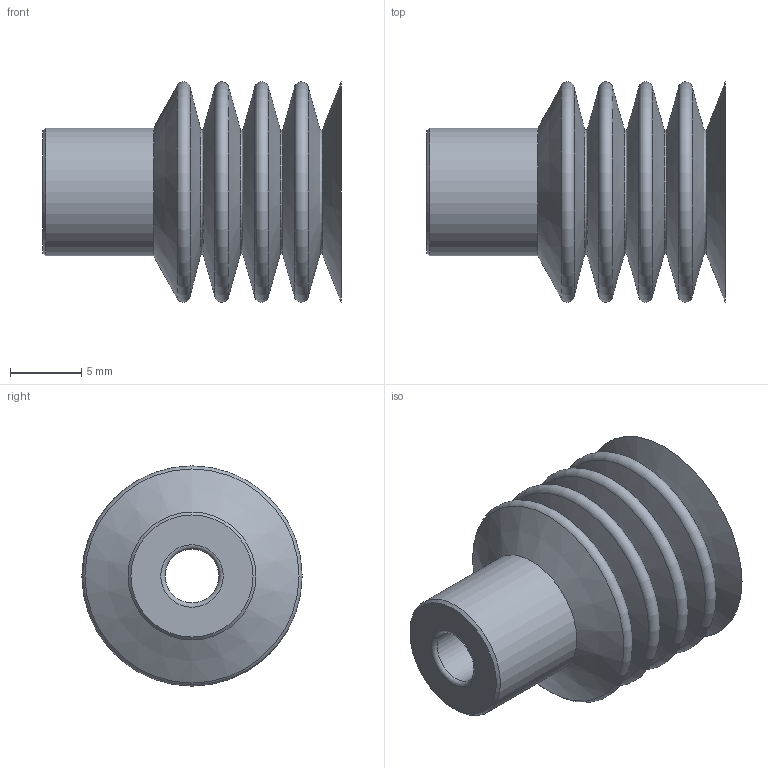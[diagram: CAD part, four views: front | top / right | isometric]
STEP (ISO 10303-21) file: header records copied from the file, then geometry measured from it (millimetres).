
FILE_DESCRIPTION( ( 'Unknown' ), '1' );
FILE_NAME( 'C:/Documents and Settings/茄惫春概平/官帕 拳搁/VBL15/VBL15.stp', 'Unknown', ( 'Unknown' ), ( 'Unknown' ), 'PSStep 10.0', 'Unknown', ' ' );
FILE_SCHEMA( ( 'automotive_design' ) );
Length unit declared in the file: millimetre
Products named in the file (1): 1
Bounding box: 21 x 15.5 x 15.5 mm (x, y, z)
Volume: 934.6 mm3; surface area: 2982.5 mm2
Topology: 1 solids, 1 shells, 43 faces, 84 edges, 44 vertices
Faces by surface type: cone 20, torus 17, plane 3, cylinder 3
Full cylindrical faces by diameter (mm): 3.8 x1, 4 x1, 9 x1
Entity records: 1228 total; most frequent: DIRECTION 174, CARTESIAN_POINT 130, AXIS2_PLACEMENT_3D 87, EDGE_LOOP 86, ORIENTED_EDGE 86, FACE_OUTER_BOUND 63, STYLED_ITEM 43, PRESENTATION_STYLE_ASSIGNMENT 43
